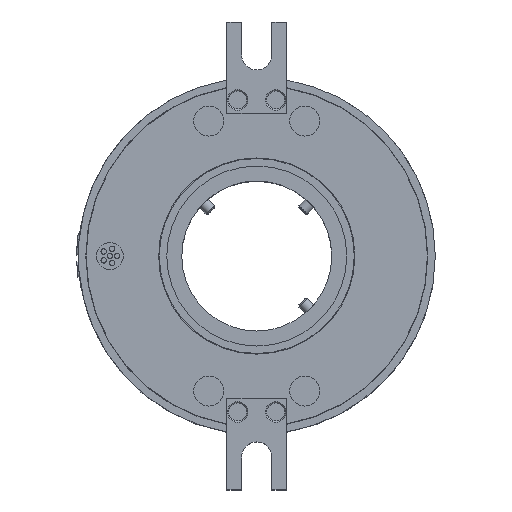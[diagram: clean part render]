
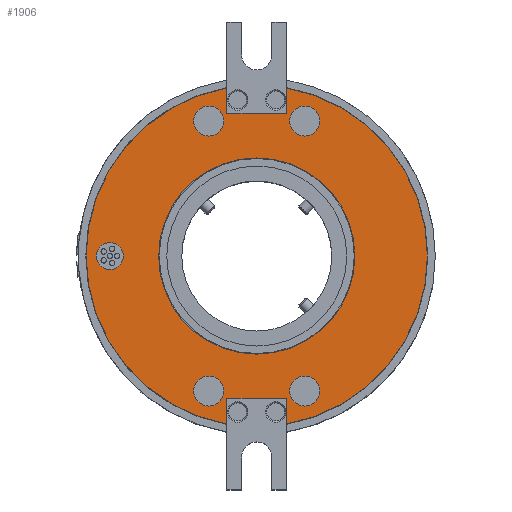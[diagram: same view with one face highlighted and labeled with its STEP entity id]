
A CAD part, top view. The second image highlights one B-rep face of the part: STEP entity #1906.
In plain terms, the highlighted planar face has unit normal (0, 0, 1).
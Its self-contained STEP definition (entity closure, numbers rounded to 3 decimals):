
#219=FACE_BOUND('',#4832,.T.);
#220=FACE_BOUND('',#4833,.T.);
#221=FACE_BOUND('',#4834,.T.);
#222=FACE_BOUND('',#4835,.T.);
#223=FACE_BOUND('',#4836,.T.);
#224=FACE_BOUND('',#4837,.T.);
#225=FACE_BOUND('',#4838,.T.);
#521=CIRCLE('',#16417,56.9);
#522=CIRCLE('',#16418,56.9);
#523=CIRCLE('',#16419,32.7);
#524=CIRCLE('',#16420,5.);
#525=CIRCLE('',#16421,5.);
#526=CIRCLE('',#16422,4.5);
#527=CIRCLE('',#16423,5.);
#528=CIRCLE('',#16424,5.);
#950=PLANE('',#16425);
#1199=LINE('',#30984,#3179);
#1200=LINE('',#30987,#3180);
#1201=LINE('',#30989,#3181);
#1202=LINE('',#30993,#3182);
#1203=LINE('',#30995,#3183);
#1204=LINE('',#30997,#3184);
#1906=ADVANCED_FACE('',(#219,#220,#221,#222,#223,#224,#225),#950,.T.);
#3179=VECTOR('',#17988,1.);
#3180=VECTOR('',#17989,1.);
#3181=VECTOR('',#17990,1.);
#3182=VECTOR('',#17993,1.);
#3183=VECTOR('',#17994,1.);
#3184=VECTOR('',#17995,1.);
#4832=EDGE_LOOP('',(#8067,#8068,#8069,#8070,#8071,#8072,#8073,#8074));
#4833=EDGE_LOOP('',(#8075));
#4834=EDGE_LOOP('',(#8076));
#4835=EDGE_LOOP('',(#8077));
#4836=EDGE_LOOP('',(#8078));
#4837=EDGE_LOOP('',(#8079));
#4838=EDGE_LOOP('',(#8080));
#8067=ORIENTED_EDGE('',*,*,#13198,.F.);
#8068=ORIENTED_EDGE('',*,*,#13199,.F.);
#8069=ORIENTED_EDGE('',*,*,#13200,.F.);
#8070=ORIENTED_EDGE('',*,*,#13201,.F.);
#8071=ORIENTED_EDGE('',*,*,#13202,.F.);
#8072=ORIENTED_EDGE('',*,*,#13203,.F.);
#8073=ORIENTED_EDGE('',*,*,#13204,.F.);
#8074=ORIENTED_EDGE('',*,*,#13205,.F.);
#8075=ORIENTED_EDGE('',*,*,#13206,.F.);
#8076=ORIENTED_EDGE('',*,*,#13207,.T.);
#8077=ORIENTED_EDGE('',*,*,#13208,.T.);
#8078=ORIENTED_EDGE('',*,*,#13209,.T.);
#8079=ORIENTED_EDGE('',*,*,#13210,.T.);
#8080=ORIENTED_EDGE('',*,*,#13211,.T.);
#11062=VERTEX_POINT('',#30985);
#11063=VERTEX_POINT('',#30986);
#11064=VERTEX_POINT('',#30988);
#11065=VERTEX_POINT('',#30990);
#11066=VERTEX_POINT('',#30992);
#11067=VERTEX_POINT('',#30994);
#11068=VERTEX_POINT('',#30996);
#11069=VERTEX_POINT('',#30998);
#11070=VERTEX_POINT('',#31001);
#11071=VERTEX_POINT('',#31003);
#11072=VERTEX_POINT('',#31005);
#11073=VERTEX_POINT('',#31007);
#11074=VERTEX_POINT('',#31009);
#11075=VERTEX_POINT('',#31011);
#13198=EDGE_CURVE('',#11062,#11063,#1199,.T.);
#13199=EDGE_CURVE('',#11064,#11062,#1200,.T.);
#13200=EDGE_CURVE('',#11065,#11064,#1201,.T.);
#13201=EDGE_CURVE('',#11066,#11065,#521,.T.);
#13202=EDGE_CURVE('',#11067,#11066,#1202,.T.);
#13203=EDGE_CURVE('',#11068,#11067,#1203,.T.);
#13204=EDGE_CURVE('',#11069,#11068,#1204,.T.);
#13205=EDGE_CURVE('',#11063,#11069,#522,.T.);
#13206=EDGE_CURVE('',#11070,#11070,#523,.T.);
#13207=EDGE_CURVE('',#11071,#11071,#524,.T.);
#13208=EDGE_CURVE('',#11072,#11072,#525,.T.);
#13209=EDGE_CURVE('',#11073,#11073,#526,.T.);
#13210=EDGE_CURVE('',#11074,#11074,#527,.T.);
#13211=EDGE_CURVE('',#11075,#11075,#528,.T.);
#16417=AXIS2_PLACEMENT_3D('',#30991,#17991,#17992);
#16418=AXIS2_PLACEMENT_3D('',#30999,#17996,#17997);
#16419=AXIS2_PLACEMENT_3D('',#31000,#17998,#17999);
#16420=AXIS2_PLACEMENT_3D('',#31002,#18000,#18001);
#16421=AXIS2_PLACEMENT_3D('',#31004,#18002,#18003);
#16422=AXIS2_PLACEMENT_3D('',#31006,#18004,#18005);
#16423=AXIS2_PLACEMENT_3D('',#31008,#18006,#18007);
#16424=AXIS2_PLACEMENT_3D('',#31010,#18008,#18009);
#16425=AXIS2_PLACEMENT_3D('',#31012,#18010,#18011);
#17988=DIRECTION('',(0.,-1.,0.));
#17989=DIRECTION('',(-1.,0.,0.));
#17990=DIRECTION('',(0.,1.,0.));
#17991=DIRECTION('',(0.,0.,-1.));
#17992=DIRECTION('',(1.,0.,0.));
#17993=DIRECTION('',(0.,1.,0.));
#17994=DIRECTION('',(1.,0.,0.));
#17995=DIRECTION('',(0.,-1.,0.));
#17996=DIRECTION('',(0.,0.,-1.));
#17997=DIRECTION('',(1.,0.,0.));
#17998=DIRECTION('',(0.,0.,1.));
#17999=DIRECTION('',(1.,0.,0.));
#18000=DIRECTION('',(0.,0.,-1.));
#18001=DIRECTION('',(1.,0.,0.));
#18002=DIRECTION('',(0.,0.,-1.));
#18003=DIRECTION('',(1.,0.,0.));
#18004=DIRECTION('',(0.,0.,-1.));
#18005=DIRECTION('',(1.,0.,0.));
#18006=DIRECTION('',(0.,0.,-1.));
#18007=DIRECTION('',(-1.,0.,0.));
#18008=DIRECTION('',(0.,0.,-1.));
#18009=DIRECTION('',(-1.,0.,0.));
#18010=DIRECTION('',(0.,0.,1.));
#18011=DIRECTION('',(1.,0.,0.));
#30984=CARTESIAN_POINT('',(-10.,-62.75,63.5));
#30985=CARTESIAN_POINT('',(-10.,-47.5,63.5));
#30986=CARTESIAN_POINT('',(-10.,-56.014,63.5));
#30987=CARTESIAN_POINT('',(0.,-47.5,63.5));
#30988=CARTESIAN_POINT('',(10.,-47.5,63.5));
#30989=CARTESIAN_POINT('',(10.,-62.75,63.5));
#30990=CARTESIAN_POINT('',(10.,-56.014,63.5));
#30991=CARTESIAN_POINT('',(0.,0.,63.5));
#30992=CARTESIAN_POINT('',(10.,56.014,63.5));
#30993=CARTESIAN_POINT('',(10.,62.75,63.5));
#30994=CARTESIAN_POINT('',(10.,47.5,63.5));
#30995=CARTESIAN_POINT('',(0.,47.5,63.5));
#30996=CARTESIAN_POINT('',(-10.,47.5,63.5));
#30997=CARTESIAN_POINT('',(-10.,62.75,63.5));
#30998=CARTESIAN_POINT('',(-10.,56.014,63.5));
#30999=CARTESIAN_POINT('',(0.,0.,63.5));
#31000=CARTESIAN_POINT('',(0.,0.,63.5));
#31001=CARTESIAN_POINT('',(32.7,0.,63.5));
#31002=CARTESIAN_POINT('',(16.,-45.,63.5));
#31003=CARTESIAN_POINT('',(21.,-45.,63.5));
#31004=CARTESIAN_POINT('',(-16.,-45.,63.5));
#31005=CARTESIAN_POINT('',(-11.,-45.,63.5));
#31006=CARTESIAN_POINT('',(-49.,0.,63.5));
#31007=CARTESIAN_POINT('',(-44.5,0.,63.5));
#31008=CARTESIAN_POINT('',(16.,45.,63.5));
#31009=CARTESIAN_POINT('',(11.,45.,63.5));
#31010=CARTESIAN_POINT('',(-16.,45.,63.5));
#31011=CARTESIAN_POINT('',(-21.,45.,63.5));
#31012=CARTESIAN_POINT('',(0.,0.,63.5));
